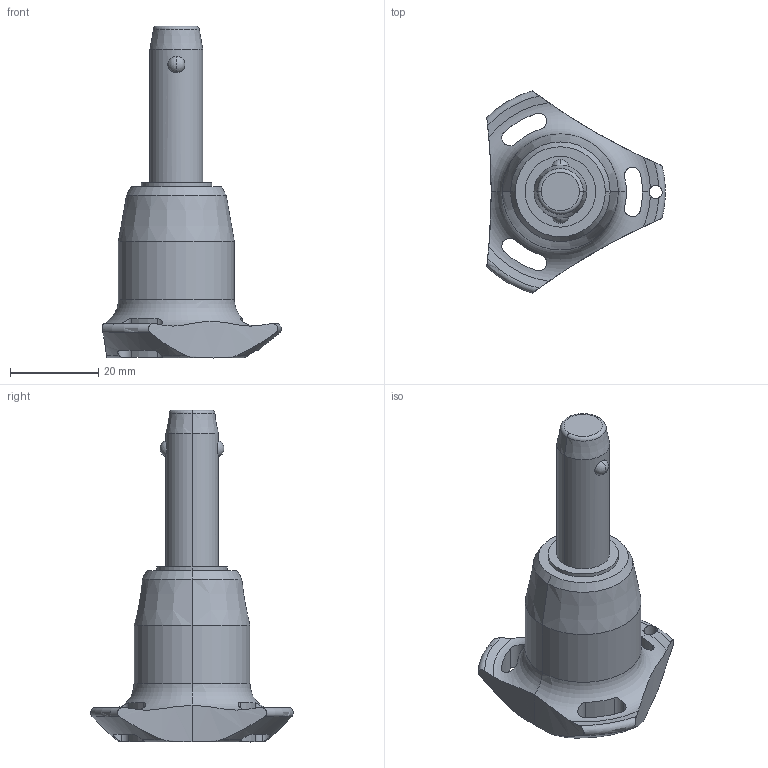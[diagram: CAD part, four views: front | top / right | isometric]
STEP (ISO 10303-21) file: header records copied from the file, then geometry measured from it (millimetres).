
FILE_DESCRIPTION (( 'STEP AP203' ), '1' );
FILE_NAME ('QR1724.M12-025-S.step', '2025-11-12T12:56:56', ( '' ), ( '' ), 'SwSTEP 2.0', 'SolidWorks 2019', '' );
FILE_SCHEMA (( 'CONFIG_CONTROL_DESIGN' ));
Length unit declared in the file: millimetre
Products named in the file (1): QR1724.M12-025-S
Bounding box: 40.5 x 45.88 x 75.3 mm (x, y, z)
Volume: 25962.6 mm3; surface area: 7280.1 mm2
Topology: 1 solids, 1 shells, 65 faces, 178 edges, 113 vertices
Faces by surface type: cylinder 30, cone 14, torus 11, sphere 6, plane 4
Entity records: 2862 total; most frequent: CARTESIAN_POINT 1173, ORIENTED_EDGE 356, DIRECTION 329, EDGE_CURVE 178, AXIS2_PLACEMENT_3D 147, VERTEX_POINT 113, CIRCLE 81, EDGE_LOOP 71
